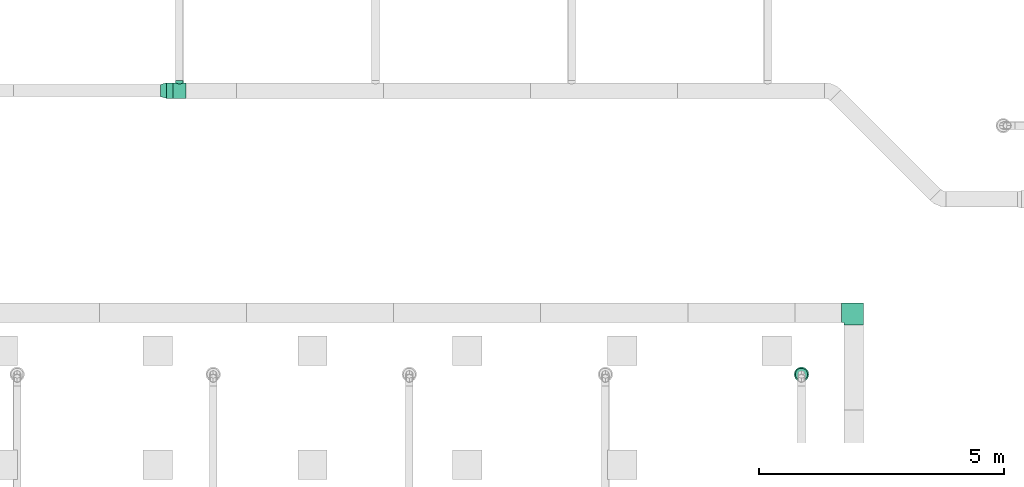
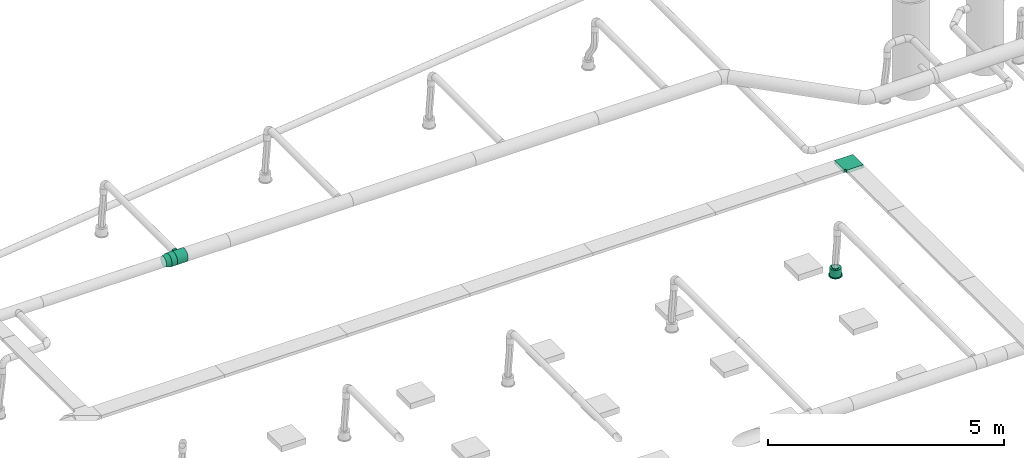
# One storey, part 46 of 374: 2 flow fittings, 1 distribution element, 1 flow segment, 1 flow terminal.
"""IFC2X3 building model written with IfcOpenShell, lengths in metres."""

import ifcopenshell
import ifcopenshell.guid

model = None  # the IFC model being written
_history = None  # IfcOwnerHistory: only IFC2X3 demands one
_inside = {}  # id of a spatial element -> (the spatial element, [elements in it])
_under = {}  # id of a project, library or spatial element -> (it, [spatial elements below it])
_declared = {}  # id of a project -> (the project, [libraries it declares])
_typed = {}  # id of a type object -> (the type object, [elements of that type])
_made_of = {}  # id of a material, layer set ... -> (it, [elements and type objects made of it])


def new_model(schema):
    """Start an empty IFC model of exactly this schema.

    Asked for "IFC4X3", IfcOpenShell would pick the latest addendum, in which some entities
    have other attributes; the version numbers below select the first issue.
    IFC2X3 requires an IfcOwnerHistory on every rooted entity: one is made here for all.
    """
    global model, _history
    if schema == "IFC4X3":
        model = ifcopenshell.file(schema_version=(4, 3, 0, 0))
    else:
        model = ifcopenshell.file(schema=schema)
    _inside.clear()
    _under.clear()
    _declared.clear()
    _typed.clear()
    _made_of.clear()
    _history = None
    if model.schema == "IFC2X3":
        org = make("IfcOrganization", Name="unknown")
        user = make(
            "IfcPersonAndOrganization",
            ThePerson=make("IfcPerson", FamilyName="unknown"),
            TheOrganization=org,
        )
        app = make(
            "IfcApplication",
            ApplicationDeveloper=org,
            Version="unknown",
            ApplicationFullName="unknown",
            ApplicationIdentifier="unknown",
        )
        _history = make(
            "IfcOwnerHistory",
            OwningUser=user,
            OwningApplication=app,
            ChangeAction="ADDED",
            CreationDate=0,
        )
    return model


def make(cls, **values):
    """One entity of the class cls with the attributes given. An attribute that is None is left unset."""
    return model.create_entity(
        cls, **{name: value for name, value in values.items() if value is not None}
    )


def rooted(cls, **values):
    """An entity with a GlobalId (a new one), such as an element, a storey or a relation."""
    return make(cls, GlobalId=ifcopenshell.guid.new(), OwnerHistory=_history, **values)


def si_unit(unit_type, name, prefix=None):
    """IfcSIUnit, for example si_unit("LENGTHUNIT", "METRE", prefix="MILLI")."""
    return make("IfcSIUnit", UnitType=unit_type, Prefix=prefix, Name=name)


def assignment(units):
    """IfcUnitAssignment: the units of a project."""
    return None if units is None else make("IfcUnitAssignment", Units=units)


def point(xyz):
    """IfcCartesianPoint."""
    return None if xyz is None else make("IfcCartesianPoint", Coordinates=xyz)


def direction(xyz):
    """IfcDirection."""
    return None if xyz is None else make("IfcDirection", DirectionRatios=xyz)


def frame(location, z_axis=None, x_axis=None):
    """IfcAxis2Placement3D, a coordinate frame: its origin and axes. An axis left out is left unset."""
    return make(
        "IfcAxis2Placement3D",
        Location=point(location),
        Axis=direction(z_axis),
        RefDirection=direction(x_axis),
    )


def origin():
    """The frame at (0, 0, 0) with its axes left unset."""
    return frame((0.0, 0.0, 0.0))


def place(relative_to, where):
    """IfcLocalPlacement: puts the frame where relative to a parent placement (None: the world)."""
    return make(
        "IfcLocalPlacement", PlacementRelTo=relative_to, RelativePlacement=where
    )


def context(
    kind, dimensions, precision=None, world=None, true_north=None, identifier=None
):
    """IfcGeometricRepresentationContext, for example the 3D "Model" context."""
    return make(
        "IfcGeometricRepresentationContext",
        ContextIdentifier=identifier,
        ContextType=kind,
        CoordinateSpaceDimension=dimensions,
        Precision=precision,
        WorldCoordinateSystem=world,
        TrueNorth=true_north,
    )


def subcontext(parent, identifier, kind, view, scale=None):
    """IfcGeometricRepresentationSubContext, for example "Body" below "Model"."""
    return make(
        "IfcGeometricRepresentationSubContext",
        ContextIdentifier=identifier,
        ContextType=kind,
        ParentContext=parent,
        TargetScale=scale,
        TargetView=view,
    )


def project(units=None, contexts=None):
    """IfcProject with its units and contexts."""
    return rooted(
        "IfcProject",
        Name="project",
        RepresentationContexts=contexts,
        UnitsInContext=assignment(units),
    )


def spatial(cls, under=None, at=None, **own):
    """A site, building, storey or space (cls), placed at a placement, below another one or the project."""
    s = rooted(cls, ObjectPlacement=at, **own)
    if under is not None:
        _under.setdefault(under.id(), (under, []))[1].append(s)
    return s


def faces_of(points, faces, orient=None, outer=None):
    """IfcFace entities. A face is a list of loops; a loop is a list of indices into points, from 0.

    orient and outer hold one flag for each loop. By default every Orientation is true, the
    first loop of a face is its IfcFaceOuterBound and the others are IfcFaceBound.
    """
    made = []
    for i, loops in enumerate(faces):
        bounds = []
        for j, loop in enumerate(loops):
            is_outer = j == 0 if outer is None else outer[i][j]
            bounds.append(
                make(
                    "IfcFaceOuterBound" if is_outer else "IfcFaceBound",
                    Bound=make("IfcPolyLoop", Polygon=[points[k] for k in loop]),
                    Orientation=True if orient is None else orient[i][j],
                )
            )
        made.append(make("IfcFace", Bounds=bounds))
    return made


def open_shell(faces, orient=None, outer=None):
    """The faces of one IfcOpenShell. surface_model builds it on its shared points."""
    return ("IfcOpenShell", faces, orient, outer)


def surface_model(cls, points, shells):
    """IfcFaceBasedSurfaceModel or IfcShellBasedSurfaceModel (cls): surfaces that need not close."""
    shared = [point(p) for p in points]
    made = [make(c, CfsFaces=faces_of(shared, fs, o, b)) for c, fs, o, b in shells]
    if cls == "IfcFaceBasedSurfaceModel":
        return make(cls, FbsmFaces=made)
    return make(cls, SbsmBoundary=made)


def shape(context_of_items, identifier, shape_type, items):
    """IfcShapeRepresentation: the items that make up one representation, for example the "Body"."""
    return make(
        "IfcShapeRepresentation",
        ContextOfItems=context_of_items,
        RepresentationIdentifier=identifier,
        RepresentationType=shape_type,
        Items=items,
    )


def source(mapping_origin, context_of_items, identifier, shape_type, items):
    """IfcRepresentationMap: a shape defined once, which mapped items show again and again."""
    return make(
        "IfcRepresentationMap",
        MappingOrigin=mapping_origin,
        MappedRepresentation=shape(context_of_items, identifier, shape_type, items),
    )


def transform(
    local_origin,
    x_axis=None,
    y_axis=None,
    z_axis=None,
    scale=None,
    scale2=None,
    scale3=None,
    uniform=True,
):
    """IfcCartesianTransformationOperator3D, or its non-uniform kind. x_axis, y_axis, z_axis: its Axis1, 2, 3."""
    if uniform:
        return make(
            "IfcCartesianTransformationOperator3D",
            Axis1=direction(x_axis),
            Axis2=direction(y_axis),
            LocalOrigin=point(local_origin),
            Scale=scale,
            Axis3=direction(z_axis),
        )
    return make(
        "IfcCartesianTransformationOperator3DnonUniform",
        Axis1=direction(x_axis),
        Axis2=direction(y_axis),
        LocalOrigin=point(local_origin),
        Scale=scale,
        Axis3=direction(z_axis),
        Scale2=scale2,
        Scale3=scale3,
    )


def mapped(mapping_source, mapping_target):
    """IfcMappedItem: shows the shape of a source again, moved by a transform."""
    return make(
        "IfcMappedItem", MappingSource=mapping_source, MappingTarget=mapping_target
    )


def made_of(thing, what):
    """Note that an element or type object is made of a material, layer set ...; save() writes the relation."""
    if what is not None:
        _made_of.setdefault(what.id(), (what, []))[1].append(thing)
    return thing


def element(
    cls,
    number,
    at=None,
    inside=None,
    cuts=None,
    type_object=None,
    material=None,
    context=None,
    identifier="Body",
    shape_type=None,
    held_by="IfcProductDefinitionShape",
    body=None,
    shapes=None,
    **own,
):
    """One element of the class cls, such as IfcWall. Its Tag is "e" and its number.

    at: its placement. inside: the storey or other place that contains it. cuts: it is an
    opening in that element (IfcRelVoidsElement). A single representation is given by context,
    identifier, shape_type and body (its items); several are given by shapes. held_by: the class
    of the entity that holds the representations. save() writes the other relations.
    """
    e = rooted(cls, Tag="e%d" % number, ObjectPlacement=at, **own)
    if body is not None:
        shapes = [shape(context, identifier, shape_type, body)]
    if shapes is not None:
        e.Representation = make(held_by, Representations=shapes)
    if inside is not None:
        _inside.setdefault(inside.id(), (inside, []))[1].append(e)
    if cuts is not None:
        rooted(
            "IfcRelVoidsElement", RelatingBuildingElement=cuts, RelatedOpeningElement=e
        )
    if type_object is not None:
        _typed.setdefault(type_object.id(), (type_object, []))[1].append(e)
    return made_of(e, material)


def aggregate(whole, parts):
    """IfcRelAggregates: a whole, such as a stair, and the parts it consists of."""
    return rooted("IfcRelAggregates", RelatingObject=whole, RelatedObjects=parts)


def save(model, path):
    """Write the relations noted so far, then the file.

    IfcRelAggregates (storeys below a building ...), IfcRelContainedInSpatialStructure (elements
    in a storey), IfcRelDefinesByType, IfcRelAssociatesMaterial and IfcRelDeclares: one each for
    every whole, place, type object, material and project.
    """
    for whole, parts in _under.values():
        aggregate(whole, parts)
    for where, things in _inside.values():
        rooted(
            "IfcRelContainedInSpatialStructure",
            RelatedElements=things,
            RelatingStructure=where,
        )
    for kind, things in _typed.values():
        rooted("IfcRelDefinesByType", RelatedObjects=things, RelatingType=kind)
    for what, things in _made_of.values():
        rooted("IfcRelAssociatesMaterial", RelatedObjects=things, RelatingMaterial=what)
    for by, libraries in _declared.values():
        rooted("IfcRelDeclares", RelatingContext=by, RelatedDefinitions=libraries)
    model.write(path)


model = new_model("IFC2X3")

# Units and contexts
model_context = context("Model", 3, precision=1e-05, world=origin(), true_north=direction((-0.4480736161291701, 0.8939966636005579)))
body_context = subcontext(model_context, "Body", "Model", "MODEL_VIEW")
ifc_project = project(units=[si_unit("LENGTHUNIT", "METRE"), si_unit("AREAUNIT", "SQUARE_METRE"), si_unit("VOLUMEUNIT", "CUBIC_METRE"), si_unit("PLANEANGLEUNIT", "RADIAN"), si_unit("THERMODYNAMICTEMPERATUREUNIT", "KELVIN"), si_unit("MASSUNIT", "GRAM", prefix="KILO"), si_unit("TIMEUNIT", "SECOND")], contexts=[model_context])

# Site, building, storey
site_placement = place(None, origin())
site = spatial("IfcSite", under=ifc_project, at=site_placement, Name="Site 1", CompositionType="ELEMENT")
building_placement = place(site_placement, origin())
building = spatial("IfcBuilding", under=site, at=building_placement, Name="Undefined", CompositionType="ELEMENT")
storey_placement = place(building_placement, origin())
storey = spatial("IfcBuildingStorey", under=building, at=storey_placement, Name="Rez de chauss\x8ee", CompositionType="ELEMENT", Elevation=0.0)

# Flow terminal
shared_shape_1 = source(origin(), body_context, "Body", "SurfaceModel", [
    surface_model("IfcFaceBasedSurfaceModel", [(0.0, 0.0, 0.0), (0.03915785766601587, 0.0, 0.0), (0.03915785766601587, 0.020000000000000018, 0.0), (3.552713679e-15, 0.020000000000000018, 0.0), (0.07698144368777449, 0.0, -0.010134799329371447), (0.07698144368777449, 0.020000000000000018, -0.010134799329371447), (0.11089314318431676, 0.0, -0.02971372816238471), (0.11089314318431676, 0.020000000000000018, -0.02971372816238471), (0.13858192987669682, 0.0, -0.05740251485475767), (0.13858192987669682, 0.020000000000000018, -0.05740251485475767), (0.15816085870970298, 0.0, -0.09131421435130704), (0.15816085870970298, 0.020000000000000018, -0.09131421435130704), (0.16829565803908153, 0.0, -0.12913780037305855), (0.16829565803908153, 0.020000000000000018, -0.12913780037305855), (0.16829565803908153, 0.0, -0.16829565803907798), (0.16829565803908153, 0.020000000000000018, -0.16829565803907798), (0.15816085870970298, 0.0, -0.20611924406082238), (0.15816085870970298, 0.020000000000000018, -0.20611924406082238), (0.13858192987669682, 0.0, -0.24003094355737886), (0.13858192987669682, 0.020000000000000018, -0.24003094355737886), (0.11089314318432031, 0.0, -0.2677197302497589), (0.11089314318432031, 0.020000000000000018, -0.2677197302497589), (0.07698144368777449, 0.0, -0.2872986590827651), (0.07698144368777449, 0.020000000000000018, -0.2872986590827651), (0.039157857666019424, 0.0, -0.29743345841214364), (0.039157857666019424, 0.020000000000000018, -0.29743345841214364), (3.552713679e-15, 0.0, -0.29743345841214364), (3.552713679e-15, 0.020000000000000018, -0.29743345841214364), (-0.03782358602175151, 0.0, -0.2872986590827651), (-0.03782358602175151, 0.020000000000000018, -0.2872986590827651), (-0.07173528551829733, 0.0, -0.2677197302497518), (-0.07173528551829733, 0.020000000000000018, -0.2677197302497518), (-0.0994240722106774, 0.0, -0.24003094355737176), (-0.0994240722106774, 0.020000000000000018, -0.24003094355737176), (-0.11900300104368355, 0.0, -0.2061192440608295), (-0.11900300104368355, 0.020000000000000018, -0.2061192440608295), (-0.1291378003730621, 0.0, -0.16829565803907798), (-0.1291378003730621, 0.020000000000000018, -0.16829565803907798), (-0.1291378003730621, 0.0, -0.12913780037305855), (-0.1291378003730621, 0.020000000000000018, -0.12913780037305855), (-0.11900300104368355, 0.0, -0.09131421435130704), (-0.11900300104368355, 0.020000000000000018, -0.09131421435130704), (-0.0994240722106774, 0.0, -0.05740251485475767), (-0.0994240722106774, 0.020000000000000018, -0.05740251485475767), (-0.07173528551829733, 0.0, -0.029713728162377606), (-0.07173528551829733, 0.020000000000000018, -0.029713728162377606), (-0.03782358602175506, 0.0, -0.010134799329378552), (-0.03782358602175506, 0.020000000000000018, -0.010134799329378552), (0.019578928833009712, 0.0, -0.14871672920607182), (0.019578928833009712, 0.020000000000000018, -0.14871672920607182), (0.003263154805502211, 0.020000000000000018, -0.02478612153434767), (0.035894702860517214, 0.020000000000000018, -0.02478612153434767), (0.035894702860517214, 0.20999999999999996, -0.02478612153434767), (0.003263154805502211, 0.20999999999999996, -0.02478612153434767), (0.06741435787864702, 0.020000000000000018, -0.033231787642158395), (0.06741435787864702, 0.20999999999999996, -0.033231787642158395), (0.0956741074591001, 0.020000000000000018, -0.04954756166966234), (0.0956741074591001, 0.20999999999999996, -0.04954756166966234), (0.11874809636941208, 0.020000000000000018, -0.07262155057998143), (0.11874809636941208, 0.20999999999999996, -0.07262155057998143), (0.13506387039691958, 0.020000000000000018, -0.10088130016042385), (0.13506387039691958, 0.20999999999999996, -0.10088130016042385), (0.1435095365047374, 0.020000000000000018, -0.13240095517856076), (0.1435095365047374, 0.20999999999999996, -0.13240095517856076), (0.1435095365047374, 0.020000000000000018, -0.16503250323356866), (0.1435095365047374, 0.20999999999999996, -0.16503250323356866), (0.13506387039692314, 0.020000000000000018, -0.19655215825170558), (0.13506387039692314, 0.20999999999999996, -0.19655215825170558), (0.11874809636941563, 0.020000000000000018, -0.2248119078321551), (0.11874809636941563, 0.20999999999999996, -0.2248119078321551), (0.09567410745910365, 0.020000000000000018, -0.24788589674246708), (0.09567410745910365, 0.20999999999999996, -0.24788589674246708), (0.06741435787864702, 0.020000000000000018, -0.26420167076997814), (0.06741435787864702, 0.20999999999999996, -0.26420167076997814), (0.035894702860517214, 0.020000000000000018, -0.27264733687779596), (0.035894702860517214, 0.20999999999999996, -0.27264733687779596), (0.0032631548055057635, 0.020000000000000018, -0.27264733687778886), (0.0032631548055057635, 0.20999999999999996, -0.27264733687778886), (-0.028256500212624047, 0.020000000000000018, -0.26420167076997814), (-0.028256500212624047, 0.20999999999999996, -0.26420167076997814), (-0.05651624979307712, 0.020000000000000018, -0.2478858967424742), (-0.05651624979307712, 0.20999999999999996, -0.2478858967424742), (-0.07959023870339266, 0.020000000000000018, -0.2248119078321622), (-0.07959023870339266, 0.20999999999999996, -0.2248119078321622), (-0.09590601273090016, 0.020000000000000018, -0.19655215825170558), (-0.09590601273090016, 0.20999999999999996, -0.19655215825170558), (-0.10435167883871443, 0.020000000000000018, -0.16503250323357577), (-0.10435167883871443, 0.20999999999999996, -0.16503250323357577), (-0.10435167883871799, 0.020000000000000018, -0.13240095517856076), (-0.10435167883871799, 0.20999999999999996, -0.13240095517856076), (-0.09590601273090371, 0.020000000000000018, -0.10088130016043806), (-0.09590601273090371, 0.20999999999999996, -0.10088130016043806), (-0.07959023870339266, 0.020000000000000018, -0.07262155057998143), (-0.07959023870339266, 0.20999999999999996, -0.07262155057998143), (-0.056516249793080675, 0.020000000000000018, -0.04954756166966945), (-0.056516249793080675, 0.20999999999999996, -0.04954756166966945), (-0.028256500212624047, 0.020000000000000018, -0.033231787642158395), (-0.028256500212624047, 0.20999999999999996, -0.033231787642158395), (0.019578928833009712, 0.20999999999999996, -0.14871672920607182), (0.009136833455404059, 0.20999999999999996, -0.06940114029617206), (0.030021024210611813, 0.20999999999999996, -0.06940114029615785), (0.030021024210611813, 0.22999999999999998, -0.06940114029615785), (0.009136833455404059, 0.22999999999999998, -0.06940114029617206), (0.05019360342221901, 0.20999999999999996, -0.07480636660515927), (0.05019360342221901, 0.22999999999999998, -0.07480636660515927), (0.06827984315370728, 0.20999999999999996, -0.08524846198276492), (0.06827984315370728, 0.22999999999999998, -0.08524846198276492), (0.0830471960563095, 0.20999999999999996, -0.10001581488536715), (0.0830471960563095, 0.22999999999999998, -0.10001581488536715), (0.0934892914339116, 0.20999999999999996, -0.11810205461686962), (0.0934892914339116, 0.22999999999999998, -0.11810205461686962), (0.09889451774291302, 0.20999999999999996, -0.13827463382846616), (0.09889451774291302, 0.22999999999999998, -0.13827463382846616), (0.09889451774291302, 0.20999999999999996, -0.15915882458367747), (0.09889451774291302, 0.22999999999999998, -0.15915882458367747), (0.09348929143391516, 0.20999999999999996, -0.179331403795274), (0.09348929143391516, 0.22999999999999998, -0.179331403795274), (0.0830471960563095, 0.20999999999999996, -0.19741764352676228), (0.0830471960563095, 0.22999999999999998, -0.19741764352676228), (0.06827984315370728, 0.20999999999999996, -0.2121849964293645), (0.06827984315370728, 0.22999999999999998, -0.2121849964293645), (0.05019360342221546, 0.20999999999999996, -0.22262709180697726), (0.05019360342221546, 0.22999999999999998, -0.22262709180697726), (0.030021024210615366, 0.20999999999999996, -0.22803231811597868), (0.030021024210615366, 0.22999999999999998, -0.22803231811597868), (0.009136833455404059, 0.20999999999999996, -0.22803231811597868), (0.009136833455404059, 0.22999999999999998, -0.22803231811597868), (-0.011035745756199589, 0.20999999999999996, -0.22262709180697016), (-0.011035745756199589, 0.22999999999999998, -0.22262709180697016), (-0.0291219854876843, 0.20999999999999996, -0.2121849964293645), (-0.0291219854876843, 0.22999999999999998, -0.2121849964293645), (-0.043889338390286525, 0.20999999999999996, -0.19741764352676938), (-0.043889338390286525, 0.22999999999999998, -0.19741764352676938), (-0.05433143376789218, 0.20999999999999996, -0.17933140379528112), (-0.05433143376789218, 0.22999999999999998, -0.17933140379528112), (-0.05973666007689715, 0.20999999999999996, -0.15915882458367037), (-0.05973666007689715, 0.22999999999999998, -0.15915882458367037), (-0.0597366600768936, 0.20999999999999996, -0.13827463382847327), (-0.0597366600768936, 0.22999999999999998, -0.13827463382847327), (-0.05433143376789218, 0.20999999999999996, -0.11810205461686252), (-0.05433143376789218, 0.22999999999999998, -0.11810205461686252), (-0.043889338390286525, 0.20999999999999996, -0.10001581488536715), (-0.043889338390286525, 0.22999999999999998, -0.10001581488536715), (-0.02912198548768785, 0.20999999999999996, -0.08524846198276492), (-0.02912198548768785, 0.22999999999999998, -0.08524846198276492), (-0.011035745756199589, 0.20999999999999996, -0.07480636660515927), (-0.011035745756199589, 0.22999999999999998, -0.07480636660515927)], [open_shell([[[0, 1, 2, 3]], [[1, 4, 5, 2]], [[4, 6, 7, 5]], [[6, 8, 9, 7]], [[8, 10, 11, 9]], [[10, 12, 13, 11]], [[12, 14, 15, 13]], [[14, 16, 17, 15]], [[16, 18, 19, 17]], [[18, 20, 21, 19]], [[20, 22, 23, 21]], [[22, 24, 25, 23]], [[24, 26, 27, 25]], [[26, 28, 29, 27]], [[28, 30, 31, 29]], [[30, 32, 33, 31]], [[32, 34, 35, 33]], [[34, 36, 37, 35]], [[36, 38, 39, 37]], [[38, 40, 41, 39]], [[40, 42, 43, 41]], [[42, 44, 45, 43]], [[44, 46, 47, 45]], [[46, 0, 3, 47]], [[48, 1, 0]], [[48, 4, 1]], [[48, 6, 4]], [[48, 8, 6]], [[48, 10, 8]], [[48, 12, 10]], [[48, 14, 12]], [[48, 16, 14]], [[48, 18, 16]], [[48, 20, 18]], [[48, 22, 20]], [[48, 24, 22]], [[48, 26, 24]], [[48, 28, 26]], [[48, 30, 28]], [[48, 32, 30]], [[48, 34, 32]], [[48, 36, 34]], [[48, 38, 36]], [[48, 40, 38]], [[48, 42, 40]], [[48, 44, 42]], [[48, 46, 44]], [[48, 0, 46]], [[49, 47, 3]], [[49, 45, 47]], [[49, 43, 45]], [[49, 41, 43]], [[49, 39, 41]], [[49, 37, 39]], [[49, 35, 37]], [[49, 33, 35]], [[49, 31, 33]], [[49, 29, 31]], [[49, 27, 29]], [[49, 25, 27]], [[49, 23, 25]], [[49, 21, 23]], [[49, 19, 21]], [[49, 17, 19]], [[49, 15, 17]], [[49, 13, 15]], [[49, 11, 13]], [[49, 9, 11]], [[49, 7, 9]], [[49, 5, 7]], [[49, 2, 5]], [[49, 3, 2]], [[50, 51, 52, 53]], [[51, 54, 55, 52]], [[54, 56, 57, 55]], [[56, 58, 59, 57]], [[58, 60, 61, 59]], [[60, 62, 63, 61]], [[62, 64, 65, 63]], [[64, 66, 67, 65]], [[66, 68, 69, 67]], [[68, 70, 71, 69]], [[70, 72, 73, 71]], [[72, 74, 75, 73]], [[74, 76, 77, 75]], [[76, 78, 79, 77]], [[78, 80, 81, 79]], [[80, 82, 83, 81]], [[82, 84, 85, 83]], [[84, 86, 87, 85]], [[86, 88, 89, 87]], [[88, 90, 91, 89]], [[90, 92, 93, 91]], [[92, 94, 95, 93]], [[94, 96, 97, 95]], [[96, 50, 53, 97]], [[49, 51, 50]], [[49, 54, 51]], [[49, 56, 54]], [[49, 58, 56]], [[49, 60, 58]], [[49, 62, 60]], [[49, 64, 62]], [[49, 66, 64]], [[49, 68, 66]], [[49, 70, 68]], [[49, 72, 70]], [[49, 74, 72]], [[49, 76, 74]], [[49, 78, 76]], [[49, 80, 78]], [[49, 82, 80]], [[49, 84, 82]], [[49, 86, 84]], [[49, 88, 86]], [[49, 90, 88]], [[49, 92, 90]], [[49, 94, 92]], [[49, 96, 94]], [[49, 50, 96]], [[98, 97, 53]], [[98, 95, 97]], [[98, 93, 95]], [[98, 91, 93]], [[98, 89, 91]], [[98, 87, 89]], [[98, 85, 87]], [[98, 83, 85]], [[98, 81, 83]], [[98, 79, 81]], [[98, 77, 79]], [[98, 75, 77]], [[98, 73, 75]], [[98, 71, 73]], [[98, 69, 71]], [[98, 67, 69]], [[98, 65, 67]], [[98, 63, 65]], [[98, 61, 63]], [[98, 59, 61]], [[98, 57, 59]], [[98, 55, 57]], [[98, 52, 55]], [[98, 53, 52]], [[99, 100, 101, 102]], [[100, 103, 104, 101]], [[103, 105, 106, 104]], [[105, 107, 108, 106]], [[107, 109, 110, 108]], [[109, 111, 112, 110]], [[111, 113, 114, 112]], [[113, 115, 116, 114]], [[115, 117, 118, 116]], [[117, 119, 120, 118]], [[119, 121, 122, 120]], [[121, 123, 124, 122]], [[123, 125, 126, 124]], [[125, 127, 128, 126]], [[127, 129, 130, 128]], [[129, 131, 132, 130]], [[131, 133, 134, 132]], [[133, 135, 136, 134]], [[135, 137, 138, 136]], [[137, 139, 140, 138]], [[139, 141, 142, 140]], [[141, 143, 144, 142]], [[143, 145, 146, 144]], [[145, 99, 102, 146]]])]),
])
flow_terminal_placement = place(storey_placement, origin())
element("IfcFlowTerminal", 1, at=flow_terminal_placement, inside=storey, Name="Air diffuseur - bouche", ObjectType="Air diffuseur - bouche", context=body_context, shape_type="MappedRepresentation", body=[
    mapped(shared_shape_1, transform((26.980053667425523, 16.80529701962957, 2.38), x_axis=(0.9914448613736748, 0.13052619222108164, 0.0), y_axis=(0.0, 0.0, 1.0), z_axis=(0.13052619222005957, -0.9914448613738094, 0.0))),
])

# Flow fitting
shared_shape_2 = source(origin(), body_context, "Body", "SurfaceModel", [
    surface_model("IfcFaceBasedSurfaceModel", [(0.0, 0.04111575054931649, 0.0), (0.0, 0.0, 0.0), (0.2599999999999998, -7.105427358e-15, 0.0), (0.259999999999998, 0.041115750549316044, 0.0), (0.0, -0.03971476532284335, -0.010641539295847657), (0.259999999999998, -0.03971476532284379, -0.010641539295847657), (0.0, -0.0753220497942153, -0.0311994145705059), (0.259999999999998, -0.07532204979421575, -0.0311994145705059), (0.0, -0.10439527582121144, -0.060272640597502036), (0.259999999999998, -0.10439527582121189, -0.060272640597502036), (0.0, -0.12495315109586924, -0.09587992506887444), (0.259999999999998, -0.12495315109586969, -0.09587992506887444), (0.0, -0.13559469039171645, -0.13559469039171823), (0.259999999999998, -0.1355946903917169, -0.13559469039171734), (0.0, -0.135594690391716, -0.17671044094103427), (0.259999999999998, -0.13559469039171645, -0.1767104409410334), (0.0, -0.1249531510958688, -0.21642520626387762), (0.259999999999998, -0.12495315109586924, -0.21642520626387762), (0.0, -0.10439527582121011, -0.2520324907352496), (0.259999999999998, -0.10439527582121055, -0.2520324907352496), (0.0, -0.07532204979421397, -0.2811057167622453), (0.259999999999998, -0.07532204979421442, -0.2811057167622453), (0.0, -0.039714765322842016, -0.3016635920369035), (0.259999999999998, -0.03971476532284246, -0.3016635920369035), (0.0, 1.776356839e-15, -0.3123051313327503), (0.259999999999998, 1.33226763e-15, -0.3123051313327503), (0.0, 0.041115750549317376, -0.31230513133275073), (0.259999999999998, 0.04111575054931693, -0.31230513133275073), (0.0, 0.08083051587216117, -0.30166359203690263), (0.259999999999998, 0.08083051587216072, -0.30166359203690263), (0.0, 0.11643780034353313, -0.28110571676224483), (0.259999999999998, 0.11643780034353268, -0.28110571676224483), (0.0, 0.14551102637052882, -0.25203249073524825), (0.259999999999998, 0.14551102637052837, -0.25203249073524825), (0.0, 0.16606890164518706, -0.2164252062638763), (0.259999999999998, 0.16606890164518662, -0.21642520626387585), (0.0, 0.17671044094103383, -0.1767104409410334), (0.259999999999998, 0.1767104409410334, -0.1767104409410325), (0.0, 0.17671044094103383, -0.1355946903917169), (0.259999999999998, 0.1767104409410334, -0.13559469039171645), (0.0, 0.16606890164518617, -0.09587992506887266), (0.259999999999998, 0.16606890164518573, -0.09587992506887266), (0.0, 0.14551102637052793, -0.06027264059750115), (0.259999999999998, 0.14551102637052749, -0.06027264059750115), (0.0, 0.1164378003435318, -0.031199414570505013), (0.259999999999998, 0.11643780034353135, -0.031199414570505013), (0.0, 0.08083051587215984, -0.010641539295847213), (0.259999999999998, 0.08083051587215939, -0.010641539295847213), (0.21000000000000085, 0.1767104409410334, -0.1767104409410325), (0.2072740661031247, 0.1726525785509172, -0.19706040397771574), (0.2072740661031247, 0.22605868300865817, -0.20409145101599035), (0.21000000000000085, 0.22876129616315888, -0.18356306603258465), (0.19928203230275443, 0.16636954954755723, -0.21569419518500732), (0.19928203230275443, 0.22354024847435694, -0.2232208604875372), (0.18656854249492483, 0.15890731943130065, -0.2314232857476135), (0.18656854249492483, 0.22137761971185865, -0.23964765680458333), (0.1699999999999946, 0.15174813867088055, -0.2433039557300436), (0.1699999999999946, 0.21971817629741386, -0.2522523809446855), (0.15070552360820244, 0.14653802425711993, -0.25067902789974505), (0.15070552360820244, 0.21867500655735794, -0.2601760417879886), (0.12999999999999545, 0.14462474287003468, -0.25317659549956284), (0.12999999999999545, 0.218319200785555, -0.26287865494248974), (0.10929447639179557, 0.14653802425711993, -0.25067902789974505), (0.10929447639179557, 0.21867500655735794, -0.2601760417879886), (0.0899999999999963, 0.15174813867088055, -0.2433039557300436), (0.0899999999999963, 0.21971817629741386, -0.2522523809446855), (0.07343145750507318, 0.15890731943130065, -0.2314232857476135), (0.07343145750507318, 0.22137761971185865, -0.23964765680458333), (0.06071796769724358, 0.16636954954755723, -0.21569419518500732), (0.06071796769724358, 0.22354024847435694, -0.2232208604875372), (0.0527259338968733, 0.1726525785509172, -0.19706040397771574), (0.0527259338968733, 0.22605868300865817, -0.20409145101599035), (0.04999999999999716, 0.1767104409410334, -0.1767104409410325), (0.04999999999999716, 0.22876129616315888, -0.18356306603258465), (0.0527259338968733, 0.17805780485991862, -0.15600363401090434), (0.0527259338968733, 0.2314639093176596, -0.16303468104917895), (0.06071796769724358, 0.1768116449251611, -0.13637860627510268), (0.06071796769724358, 0.23398234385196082, -0.14390527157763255), (0.07343145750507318, 0.1736746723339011, -0.11925410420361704), (0.07343145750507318, 0.2361449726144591, -0.12747847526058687), (0.0899999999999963, 0.1698343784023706, -0.10592532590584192), (0.0899999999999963, 0.2378044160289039, -0.11487375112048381), (0.10929447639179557, 0.16671060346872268, -0.09745307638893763), (0.10929447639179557, 0.23884758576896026, -0.10695009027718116), (0.12999999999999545, 0.16550893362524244, -0.09454541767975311), (0.12999999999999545, 0.23920339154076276, -0.10424747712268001), (0.15070552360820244, 0.16671060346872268, -0.09745307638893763), (0.15070552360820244, 0.23884758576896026, -0.10695009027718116), (0.1699999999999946, 0.1698343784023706, -0.10592532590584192), (0.1699999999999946, 0.2378044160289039, -0.11487375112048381), (0.18656854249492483, 0.1736746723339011, -0.11925410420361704), (0.18656854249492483, 0.2361449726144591, -0.12747847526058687), (0.19928203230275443, 0.1768116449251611, -0.13637860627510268), (0.19928203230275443, 0.23398234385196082, -0.14390527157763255), (0.2072740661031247, 0.17805780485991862, -0.15600363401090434), (0.2072740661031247, 0.2314639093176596, -0.16303468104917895)], [open_shell([[[0, 1, 2, 3]], [[1, 4, 5, 2]], [[4, 6, 7, 5]], [[6, 8, 9, 7]], [[8, 10, 11, 9]], [[10, 12, 13, 11]], [[12, 14, 15, 13]], [[14, 16, 17, 15]], [[16, 18, 19, 17]], [[18, 20, 21, 19]], [[20, 22, 23, 21]], [[22, 24, 25, 23]], [[24, 26, 27, 25]], [[26, 28, 29, 27]], [[28, 30, 31, 29]], [[30, 32, 33, 31]], [[32, 34, 35, 33]], [[34, 36, 37, 35]], [[36, 38, 39, 37]], [[38, 40, 41, 39]], [[40, 42, 43, 41]], [[42, 44, 45, 43]], [[44, 46, 47, 45]], [[46, 0, 3, 47]], [[48, 49, 50, 51]], [[49, 52, 53, 50]], [[52, 54, 55, 53]], [[54, 56, 57, 55]], [[56, 58, 59, 57]], [[58, 60, 61, 59]], [[60, 62, 63, 61]], [[62, 64, 65, 63]], [[64, 66, 67, 65]], [[66, 68, 69, 67]], [[68, 70, 71, 69]], [[70, 72, 73, 71]], [[72, 74, 75, 73]], [[74, 76, 77, 75]], [[76, 78, 79, 77]], [[78, 80, 81, 79]], [[80, 82, 83, 81]], [[82, 84, 85, 83]], [[84, 86, 87, 85]], [[86, 88, 89, 87]], [[88, 90, 91, 89]], [[90, 92, 93, 91]], [[92, 94, 95, 93]], [[94, 48, 51, 95]]])]),
])
flow_fitting_1_placement = place(storey_placement, origin())
element("IfcFlowFitting", 2, at=flow_fitting_1_placement, inside=storey, Name="Pièce en té 90°", ObjectType="Pièce en té 90°", context=body_context, shape_type="MappedRepresentation", body=[
    mapped(shared_shape_2, transform((14.160000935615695, 22.704165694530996, 3.952133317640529), x_axis=(1.0, 0.0, 0.0), y_axis=(0.0, 0.9914448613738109, 0.1305261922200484), z_axis=(0.0, -0.1305261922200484, 0.9914448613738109))),
])

# Flow segment
shared_shape_3 = source(origin(), body_context, "Body", "SurfaceModel", [
    surface_model("IfcFaceBasedSurfaceModel", [(0.0, 0.04111575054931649, 0.0), (0.0, 0.0, 0.0), (0.13500000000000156, -7.105427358e-15, 8.8817842e-16), (0.1349999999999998, 0.041115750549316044, -4.4408921e-16), (0.0, -0.03971476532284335, -0.010641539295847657), (0.1349999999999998, -0.03971476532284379, -0.010641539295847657), (0.0, -0.0753220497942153, -0.0311994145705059), (0.1349999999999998, -0.0753220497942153, -0.0311994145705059), (0.0, -0.10439527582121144, -0.060272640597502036), (0.1349999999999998, -0.10439527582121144, -0.060272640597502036), (0.0, -0.12495315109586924, -0.09587992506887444), (0.1349999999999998, -0.12495315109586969, -0.095879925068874), (0.0, -0.13559469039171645, -0.13559469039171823), (0.1349999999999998, -0.13559469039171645, -0.1355946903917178), (0.0, -0.135594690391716, -0.17671044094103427), (0.1349999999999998, -0.1355946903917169, -0.1767104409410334), (0.0, -0.1249531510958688, -0.21642520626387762), (0.1349999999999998, -0.12495315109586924, -0.21642520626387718), (0.0, -0.10439527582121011, -0.2520324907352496), (0.1349999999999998, -0.104395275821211, -0.25203249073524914), (0.0, -0.07532204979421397, -0.2811057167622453), (0.1349999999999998, -0.07532204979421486, -0.28110571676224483), (0.0, -0.039714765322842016, -0.3016635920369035), (0.1349999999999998, -0.03971476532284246, -0.30166359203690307), (0.0, 1.776356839e-15, -0.3123051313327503), (0.1349999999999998, 4.4408921e-16, -0.31230513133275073), (0.0, 0.041115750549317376, -0.31230513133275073), (0.1349999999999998, 0.04111575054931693, -0.3123051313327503), (0.0, 0.08083051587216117, -0.30166359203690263), (0.1349999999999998, 0.08083051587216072, -0.30166359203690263), (0.0, 0.11643780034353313, -0.28110571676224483), (0.1349999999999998, 0.11643780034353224, -0.2811057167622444), (0.0, 0.14551102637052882, -0.25203249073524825), (0.1349999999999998, 0.14551102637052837, -0.25203249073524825), (0.0, 0.16606890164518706, -0.2164252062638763), (0.1349999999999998, 0.16606890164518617, -0.2164252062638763), (0.0, 0.17671044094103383, -0.1767104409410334), (0.1349999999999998, 0.17671044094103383, -0.17671044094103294), (0.0, 0.17671044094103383, -0.1355946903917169), (0.1349999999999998, 0.1767104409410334, -0.1355946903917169), (0.0, 0.16606890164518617, -0.09587992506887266), (0.1349999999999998, 0.16606890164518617, -0.0958799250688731), (0.0, 0.14551102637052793, -0.06027264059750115), (0.1349999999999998, 0.14551102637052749, -0.06027264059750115), (0.0, 0.1164378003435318, -0.031199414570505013), (0.1349999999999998, 0.1164378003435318, -0.031199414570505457), (0.0, 0.08083051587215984, -0.010641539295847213), (0.1349999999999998, 0.08083051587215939, -0.010641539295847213)], [open_shell([[[0, 1, 2, 3]], [[1, 4, 5, 2]], [[4, 6, 7, 5]], [[6, 8, 9, 7]], [[8, 10, 11, 9]], [[10, 12, 13, 11]], [[12, 14, 15, 13]], [[14, 16, 17, 15]], [[16, 18, 19, 17]], [[18, 20, 21, 19]], [[20, 22, 23, 21]], [[22, 24, 25, 23]], [[24, 26, 27, 25]], [[26, 28, 29, 27]], [[28, 30, 31, 29]], [[30, 32, 33, 31]], [[32, 34, 35, 33]], [[34, 36, 37, 35]], [[36, 38, 39, 37]], [[38, 40, 41, 39]], [[40, 42, 43, 41]], [[42, 44, 45, 43]], [[44, 46, 47, 45]], [[46, 0, 3, 47]]])]),
])
flow_segment_placement = place(storey_placement, origin())
element("IfcFlowSegment", 3, at=flow_segment_placement, inside=storey, Name="Manchon", ObjectType="Manchon", context=body_context, shape_type="MappedRepresentation", body=[
    mapped(shared_shape_3, transform((14.160000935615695, 22.785693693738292, 3.952133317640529), x_axis=(-1.0, 0.0, 0.0), y_axis=(7.266545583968e-12, -0.9914448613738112, 0.13052619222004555), z_axis=(0.0, 0.13052619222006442, 0.9914448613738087))),
])

# Flow fitting
shared_shape_4 = source(origin(), body_context, "Body", "SurfaceModel", [
    surface_model("IfcFaceBasedSurfaceModel", [(0.12335821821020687, 0.0, -1.776356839e-15), (0.12194431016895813, 0.04109143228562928, 0.0), (-0.0011221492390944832, 0.03261224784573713, 0.0), (0.0, 0.0, 0.0), (0.11779894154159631, 0.08068706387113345, -0.0102716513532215), (-0.00441212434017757, 0.06403735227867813, -0.008152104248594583), (0.1112046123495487, 0.11608851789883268, -0.03011495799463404), (-0.009645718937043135, 0.09213374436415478, -0.023900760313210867), (0.10261071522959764, 0.1448832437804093, -0.05817763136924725), (-0.016466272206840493, 0.11498670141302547, -0.04617272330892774), (0.09260291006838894, 0.16510892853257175, -0.09254724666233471), (-0.02440897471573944, 0.1310388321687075, -0.07345019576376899), (0.08186321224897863, 0.17538722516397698, -0.13088157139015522), (-0.032932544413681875, 0.13919621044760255, -0.10387426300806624), (0.07112351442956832, 0.17501768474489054, -0.1705681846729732), (-0.04145611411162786, 0.13890292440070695, -0.1353715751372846), (0.06111570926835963, 0.16402549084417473, -0.2089025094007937), (-0.049398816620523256, 0.13017896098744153, -0.16579564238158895), (0.05252181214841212, 0.14315974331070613, -0.24327212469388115), (-0.05621936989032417, 0.11361884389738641, -0.19307311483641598), (0.0459274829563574, 0.11384240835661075, -0.27133479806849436), (-0.06145296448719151, 0.09035111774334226, -0.21534507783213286), (0.041782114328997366, 0.07807141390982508, -0.2911781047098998), (-0.06474293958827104, 0.06196143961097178, -0.23109373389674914), (0.040368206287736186, 0.03828449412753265, -0.3014497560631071), (-0.06586508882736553, 0.030384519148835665, -0.2392458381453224), (0.041782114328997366, -0.002806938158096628, -0.3014497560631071), (-0.06474293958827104, -0.0022277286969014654, -0.23924583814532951), (0.04592748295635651, -0.04240256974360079, -0.2911781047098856), (-0.06145296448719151, -0.03365283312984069, -0.23109373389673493), (0.05252181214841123, -0.07780402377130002, -0.27133479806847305), (-0.056219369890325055, -0.06174922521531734, -0.21534507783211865), (0.06111570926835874, -0.10659874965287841, -0.24327212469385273), (-0.049398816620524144, -0.08460218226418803, -0.19307311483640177), (0.07112351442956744, -0.12682443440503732, -0.20890250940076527), (-0.04145611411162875, -0.10065431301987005, -0.16579564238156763), (0.08186321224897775, -0.1371027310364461, -0.17056818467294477), (-0.03293254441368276, -0.10881169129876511, -0.13537157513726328), (0.09260291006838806, -0.1367331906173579, -0.1308815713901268), (-0.024408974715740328, -0.10851840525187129, -0.10387426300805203), (0.10261071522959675, -0.12574099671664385, -0.09254724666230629), (-0.01646627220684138, -0.09979444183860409, -0.07345019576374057), (0.11120461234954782, -0.10487524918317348, -0.058177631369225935), (-0.009645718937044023, -0.08323432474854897, -0.04617272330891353), (0.11779894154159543, -0.0755579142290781, -0.030114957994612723), (-0.00441212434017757, -0.05996659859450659, -0.023900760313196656), (0.12194431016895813, -0.03978691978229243, -0.01027165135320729), (-0.0011221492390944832, -0.031576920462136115, -0.008152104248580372)], [open_shell([[[0, 1, 2, 3]], [[1, 4, 5, 2]], [[4, 6, 7, 5]], [[6, 8, 9, 7]], [[8, 10, 11, 9]], [[10, 12, 13, 11]], [[12, 14, 15, 13]], [[14, 16, 17, 15]], [[16, 18, 19, 17]], [[18, 20, 21, 19]], [[20, 22, 23, 21]], [[22, 24, 25, 23]], [[24, 26, 27, 25]], [[26, 28, 29, 27]], [[28, 30, 31, 29]], [[30, 32, 33, 31]], [[32, 34, 35, 33]], [[34, 36, 37, 35]], [[36, 38, 39, 37]], [[38, 40, 41, 39]], [[40, 42, 43, 41]], [[42, 44, 45, 43]], [[44, 46, 47, 45]], [[46, 0, 3, 47]]])]),
])
flow_fitting_2_placement = place(storey_placement, origin())
element("IfcFlowFitting", 4, at=flow_fitting_2_placement, inside=storey, Name="Réduction conique", ObjectType="Réduction conique", context=body_context, shape_type="MappedRepresentation", body=[
    mapped(shared_shape_4, transform((13.906000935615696, 22.86992969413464, 3.8000000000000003), x_axis=(0.9646702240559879, 0.2634603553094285, 0.0), y_axis=(0.03319317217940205, -0.12153807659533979, -0.9920316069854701), z_axis=(-0.26136099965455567, 0.9569833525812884, -0.12598924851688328))),
])

# Distribution element
shared_shape_5 = source(origin(), body_context, "Body", "SurfaceModel", [
    surface_model("IfcFaceBasedSurfaceModel", [(0.0, 0.049999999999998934, 0.0), (0.0, 0.0, 0.0), (0.08000000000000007, 0.0, 5.82867088e-16), (0.08000000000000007, 0.04999999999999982, 0.0), (0.0, 0.0, 0.04999999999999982), (0.08000000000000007, 0.0, 0.04999999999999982), (0.0, -0.3999999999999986, 0.04999999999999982), (1.776356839e-15, -0.3999999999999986, -0.3999999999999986), (0.08000000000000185, -0.3999999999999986, -0.3999999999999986), (0.08000000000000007, -0.3999999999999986, 0.04999999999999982), (0.0, 0.04999999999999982, -0.3999999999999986), (0.08000000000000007, 0.04999999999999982, -0.3999999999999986)], [open_shell([[[0, 1, 2, 3]], [[1, 4, 5, 2]], [[6, 7, 8, 9]], [[7, 10, 11, 8]], [[2, 5, 9]], [[2, 9, 8]], [[2, 8, 11]], [[2, 11, 3]], [[6, 4, 1]], [[7, 6, 1]], [[10, 7, 1]], [[0, 10, 1]]])]),
])
distribution_element_placement = place(storey_placement, origin())
element("IfcDistributionElement", 5, at=distribution_element_placement, inside=storey, Name="Angle", ObjectType="Angle", context=body_context, shape_type="MappedRepresentation", body=[
    mapped(shared_shape_5, transform((27.84402783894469, 18.011, 4.18), x_axis=(0.0, 0.0, -1.0), y_axis=(0.0, -1.0, 0.0), z_axis=(-1.0, 0.0, 0.0))),
])

save(model, "model.ifc")
